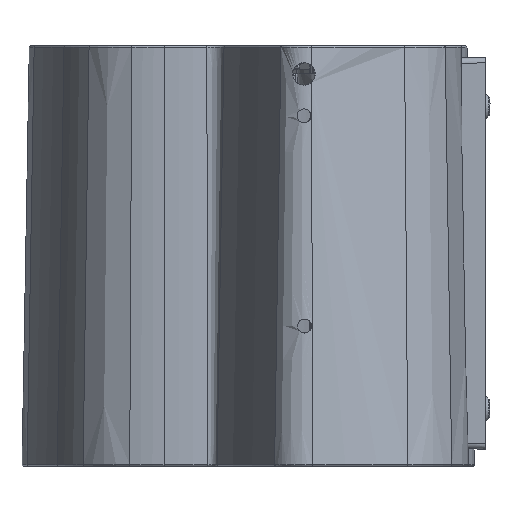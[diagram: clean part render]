
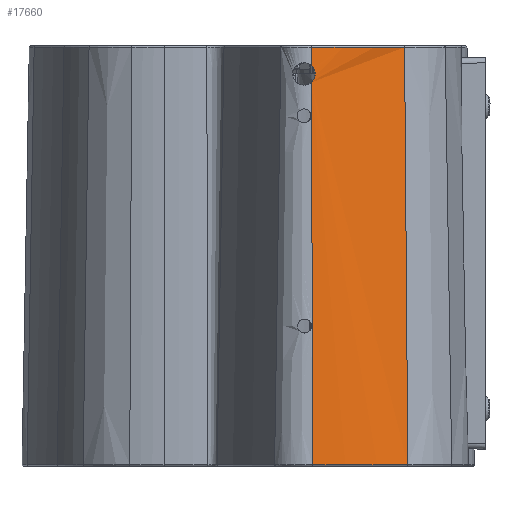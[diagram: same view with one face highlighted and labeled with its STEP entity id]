
A CAD part, left-side view. The second image highlights one B-rep face of the part: STEP entity #17660.
In plain terms, the highlighted conical face has half-angle 1 degrees and reference radius 140.695 mm.
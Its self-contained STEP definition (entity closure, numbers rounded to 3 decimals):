
#887=B_SPLINE_CURVE_WITH_KNOTS('',3,(#28845,#28846,#28847,#28848,#28849),
 .UNSPECIFIED.,.F.,.F.,(4,1,4),(0.,0.003,
0.007),.UNSPECIFIED.);
#1100=CONICAL_SURFACE('',#20551,140.695,0.017);
#1253=LINE('',#28825,#2573);
#1254=LINE('',#28840,#2574);
#1255=LINE('',#28852,#2575);
#2573=VECTOR('',#23010,1000.);
#2574=VECTOR('',#23011,1000.);
#2575=VECTOR('',#23020,1000.);
#4111=ORIENTED_EDGE('',*,*,#9438,.T.);
#4112=ORIENTED_EDGE('',*,*,#9441,.T.);
#4113=ORIENTED_EDGE('',*,*,#9436,.T.);
#4114=ORIENTED_EDGE('',*,*,#9442,.T.);
#4115=ORIENTED_EDGE('',*,*,#9443,.F.);
#4116=ORIENTED_EDGE('',*,*,#9444,.T.);
#9436=EDGE_CURVE('',#12101,#12102,#1253,.T.);
#9438=EDGE_CURVE('',#12104,#12103,#1254,.T.);
#9441=EDGE_CURVE('',#12103,#12101,#887,.T.);
#9442=EDGE_CURVE('',#12102,#12105,#13780,.F.);
#9443=EDGE_CURVE('',#12106,#12105,#1255,.T.);
#9444=EDGE_CURVE('',#12106,#12104,#13781,.F.);
#12101=VERTEX_POINT('',#28826);
#12102=VERTEX_POINT('',#28827);
#12103=VERTEX_POINT('',#28839);
#12104=VERTEX_POINT('',#28841);
#12105=VERTEX_POINT('',#28851);
#12106=VERTEX_POINT('',#28853);
#13780=CIRCLE('',#20552,140.686);
#13781=CIRCLE('',#20553,138.086);
#14571=EDGE_LOOP('',(#4111,#4112,#4113,#4114,#4115,#4116));
#15860=FACE_BOUND('',#14571,.T.);
#17660=ADVANCED_FACE('',(#15860),#1100,.T.);
#20551=AXIS2_PLACEMENT_3D('',#28844,#23016,#23017);
#20552=AXIS2_PLACEMENT_3D('',#28850,#23018,#23019);
#20553=AXIS2_PLACEMENT_3D('',#28854,#23021,#23022);
#23010=DIRECTION('',(-0.017,-0.004,-1.));
#23011=DIRECTION('',(-0.017,-0.004,-1.));
#23016=DIRECTION('',(0.,0.,-1.));
#23017=DIRECTION('',(1.,0.,0.));
#23018=DIRECTION('',(0.,0.,-1.));
#23019=DIRECTION('',(-1.,0.,0.));
#23020=DIRECTION('',(-0.016,-0.008,-1.));
#23021=DIRECTION('',(0.,0.,1.));
#23022=DIRECTION('',(1.,0.,0.));
#28825=CARTESIAN_POINT('',(-135.927,-23.312,0.));
#28826=CARTESIAN_POINT('',(-133.586,-22.827,136.958));
#28827=CARTESIAN_POINT('',(-135.918,-23.31,0.509));
#28839=CARTESIAN_POINT('',(-133.482,-22.806,143.052));
#28840=CARTESIAN_POINT('',(-135.927,-23.312,0.));
#28841=CARTESIAN_POINT('',(-133.372,-22.783,149.509));
#28844=CARTESIAN_POINT('',(1.853,5.18,0.));
#28845=CARTESIAN_POINT('',(-133.482,-22.806,143.052));
#28846=CARTESIAN_POINT('',(-133.314,-23.681,142.301));
#28847=CARTESIAN_POINT('',(-133.125,-24.72,140.009));
#28848=CARTESIAN_POINT('',(-133.393,-23.697,137.712));
#28849=CARTESIAN_POINT('',(-133.586,-22.827,136.958));
#28850=CARTESIAN_POINT('',(1.853,5.18,0.509));
#28851=CARTESIAN_POINT('',(-124.234,-57.228,0.509));
#28852=CARTESIAN_POINT('',(-124.242,-57.232,0.));
#28853=CARTESIAN_POINT('',(-121.903,-56.074,149.509));
#28854=CARTESIAN_POINT('',(1.853,5.18,149.509));
